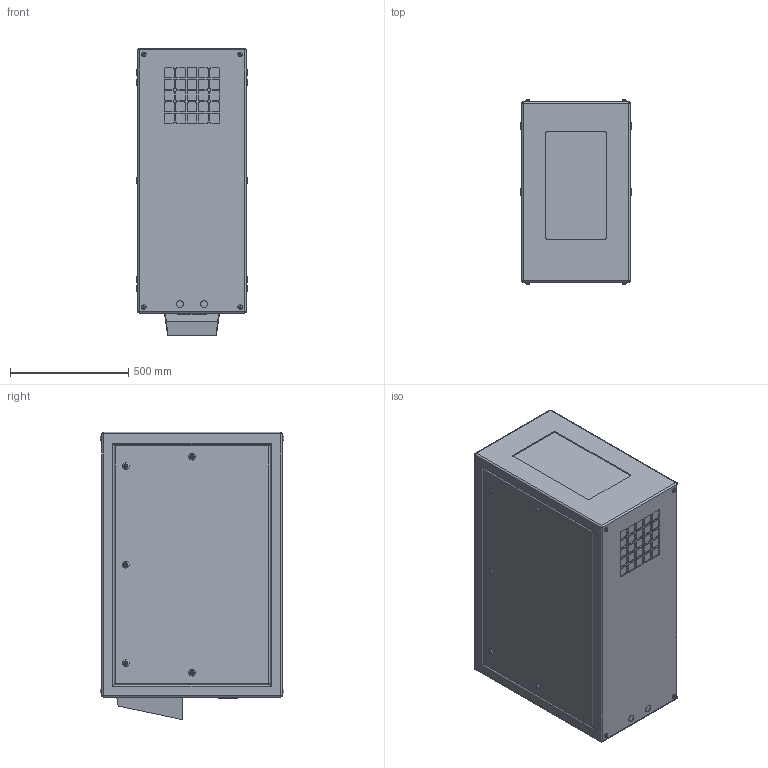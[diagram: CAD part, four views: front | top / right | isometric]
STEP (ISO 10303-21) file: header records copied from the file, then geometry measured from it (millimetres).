
FILE_DESCRIPTION (( 'STEP AP214' ), '1' );
FILE_NAME ('Cyclone 55.202.P R10.STEP', '2022-09-08T18:58:42', ( '' ), ( '' ), 'SwSTEP 2.0', 'SolidWorks 2020', '' );
FILE_SCHEMA (( 'AUTOMOTIVE_DESIGN' ));
Length unit declared in the file: inch
Products named in the file (1): Cyclone 55.202.P R10
Bounding box: 469.9 x 776.6 x 1212.85 mm (x, y, z)
Volume: 163160262.8 mm3; surface area: 6307729 mm2
Topology: 1 solids, 8 shells, 635 faces, 1504 edges, 968 vertices
Faces by surface type: plane 307, cylinder 272, torus 48, sphere 8
Entity records: 23006 total; most frequent: CARTESIAN_POINT 3564, DIRECTION 3280, ORIENTED_EDGE 2992, EDGE_CURVE 1496, AXIS2_PLACEMENT_3D 1228, VERTEX_POINT 968, LINE 824, VECTOR 824
